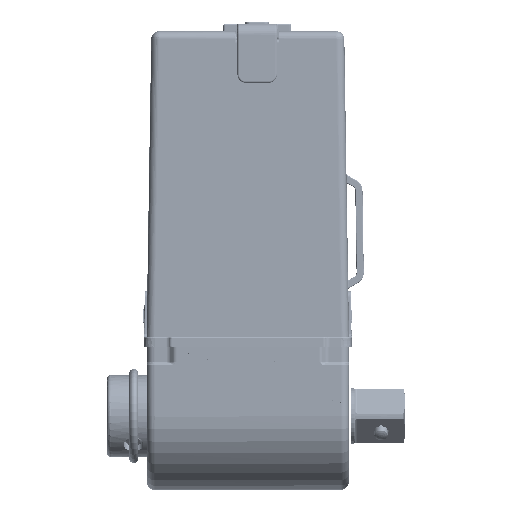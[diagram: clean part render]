
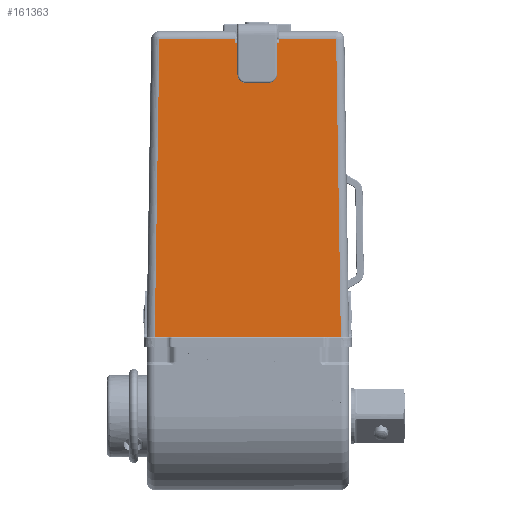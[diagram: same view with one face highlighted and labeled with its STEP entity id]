
A CAD part, left-side view. The second image highlights one B-rep face of the part: STEP entity #161363.
In plain terms, the highlighted planar face has unit normal (-1, 0, 0.016).
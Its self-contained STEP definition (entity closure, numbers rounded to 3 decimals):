
#17131=DIRECTION('',(0.,1.,0.));
#17132=VECTOR('',#17131,17.274);
#17133=CARTESIAN_POINT('',(-19.139,-26.89,
114.657));
#17134=LINE('',#17133,#17132);
#17171=DIRECTION('',(0.,-1.,0.));
#17172=VECTOR('',#17171,56.628);
#17173=CARTESIAN_POINT('',(-20.564,28.314,
24.));
#17174=LINE('',#17173,#17172);
#17204=DIRECTION('',(0.016,-0.016,1.));
#17205=VECTOR('',#17204,90.68);
#17206=CARTESIAN_POINT('',(-20.564,28.314,
24.));
#17207=LINE('',#17206,#17205);
#17208=DIRECTION('',(-0.016,-0.016,-1.));
#17209=VECTOR('',#17208,90.68);
#17210=CARTESIAN_POINT('',(-19.139,-26.89,
114.657));
#17211=LINE('',#17210,#17209);
#17212=CARTESIAN_POINT('',(-19.301,0.121,
104.359));
#17213=CARTESIAN_POINT('',(-19.301,0.209,
104.361));
#17214=CARTESIAN_POINT('',(-19.302,0.366,
104.326));
#17215=CARTESIAN_POINT('',(-19.304,0.559,
104.198));
#17216=CARTESIAN_POINT('',(-19.307,0.69,
104.));
#17217=CARTESIAN_POINT('',(-19.309,0.721,
103.852));
#17218=CARTESIAN_POINT('',(-19.31,0.721,
103.772));
#17220=CARTESIAN_POINT('',(-19.337,0.721,
102.072));
#17221=CARTESIAN_POINT('',(-19.338,0.721,
101.991));
#17222=CARTESIAN_POINT('',(-19.341,0.69,
101.843));
#17223=CARTESIAN_POINT('',(-19.344,0.561,
101.647));
#17224=CARTESIAN_POINT('',(-19.346,0.364,
101.517));
#17225=CARTESIAN_POINT('',(-19.346,0.216,
101.486));
#17226=CARTESIAN_POINT('',(-19.346,0.135,
101.486));
#17228=CARTESIAN_POINT('',(-19.346,-5.865,
101.486));
#17229=CARTESIAN_POINT('',(-19.346,-5.945,
101.486));
#17230=CARTESIAN_POINT('',(-19.346,-6.093,
101.516));
#17231=CARTESIAN_POINT('',(-19.344,-6.29,
101.646));
#17232=CARTESIAN_POINT('',(-19.341,-6.42,
101.843));
#17233=CARTESIAN_POINT('',(-19.338,-6.451,
101.991));
#17234=CARTESIAN_POINT('',(-19.337,-6.451,
102.072));
#17236=CARTESIAN_POINT('',(-19.31,-6.451,
103.772));
#17237=CARTESIAN_POINT('',(-19.309,-6.451,
103.852));
#17238=CARTESIAN_POINT('',(-19.307,-6.421,
104.));
#17239=CARTESIAN_POINT('',(-19.304,-6.29,
104.197));
#17240=CARTESIAN_POINT('',(-19.302,-6.097,
104.325));
#17241=CARTESIAN_POINT('',(-19.301,-5.94,
104.361));
#17242=CARTESIAN_POINT('',(-19.301,-5.85,
104.359));
#39877=CARTESIAN_POINT('',(-19.299,-5.585,
104.488));
#39878=CARTESIAN_POINT('',(-19.299,-5.62,
104.488));
#39879=CARTESIAN_POINT('',(-19.299,-5.685,
104.478));
#39880=CARTESIAN_POINT('',(-19.3,-5.78,
104.431));
#39881=CARTESIAN_POINT('',(-19.301,-5.83,
104.384));
#39882=CARTESIAN_POINT('',(-19.301,-5.85,
104.359));
#39904=DIRECTION('',(0.,-1.,0.));
#39905=VECTOR('',#39904,5.441);
#39906=CARTESIAN_POINT('',(-19.299,-0.144,
104.488));
#39907=LINE('',#39906,#39905);
#39922=CARTESIAN_POINT('',(-19.301,0.121,
104.359));
#39923=CARTESIAN_POINT('',(-19.301,0.1,
104.384));
#39924=CARTESIAN_POINT('',(-19.3,0.051,
104.431));
#39925=CARTESIAN_POINT('',(-19.299,-0.045,
104.478));
#39926=CARTESIAN_POINT('',(-19.299,-0.11,
104.488));
#39927=CARTESIAN_POINT('',(-19.299,-0.144,
104.488));
#40714=DIRECTION('',(-0.016,0.,-1.));
#40715=VECTOR('',#40714,1.7);
#40716=CARTESIAN_POINT('',(-19.31,-6.451,
103.772));
#40717=LINE('',#40716,#40715);
#40732=DIRECTION('',(0.,1.,0.));
#40733=VECTOR('',#40732,6.);
#40734=CARTESIAN_POINT('',(-19.346,-5.865,
101.486));
#40735=LINE('',#40734,#40733);
#40750=DIRECTION('',(0.016,0.,1.));
#40751=VECTOR('',#40750,1.7);
#40752=CARTESIAN_POINT('',(-19.337,0.721,
102.072));
#40753=LINE('',#40752,#40751);
#41122=DIRECTION('',(0.,1.,0.));
#41123=VECTOR('',#41122,13.466);
#41124=CARTESIAN_POINT('',(-19.156,-9.598,
113.634));
#41125=LINE('',#41124,#41123);
#41137=DIRECTION('',(-0.016,0.017,-1.));
#41138=VECTOR('',#41137,1.024);
#41139=CARTESIAN_POINT('',(-19.139,-9.616,
114.657));
#41140=LINE('',#41139,#41138);
#41141=DIRECTION('',(0.016,0.017,1.));
#41142=VECTOR('',#41141,1.024);
#41143=CARTESIAN_POINT('',(-19.156,3.868,
113.634));
#41144=LINE('',#41143,#41142);
#41165=DIRECTION('',(0.,1.,0.));
#41166=VECTOR('',#41165,23.004);
#41167=CARTESIAN_POINT('',(-19.139,3.886,
114.657));
#41168=LINE('',#41167,#41166);
#123743=CARTESIAN_POINT('',(-19.31,0.721,
103.772));
#123744=VERTEX_POINT('',#123743);
#123745=VERTEX_POINT('',#17212);
#123748=CARTESIAN_POINT('',(-19.337,0.721,
102.072));
#123749=VERTEX_POINT('',#123748);
#123752=CARTESIAN_POINT('',(-20.564,28.314,
24.));
#123753=CARTESIAN_POINT('',(-20.564,-28.314,
24.));
#123754=VERTEX_POINT('',#123752);
#123755=VERTEX_POINT('',#123753);
#123756=CARTESIAN_POINT('',(-19.139,26.89,
114.657));
#123757=VERTEX_POINT('',#123756);
#123758=CARTESIAN_POINT('',(-19.139,3.886,
114.657));
#123759=VERTEX_POINT('',#123758);
#123760=CARTESIAN_POINT('',(-19.156,3.868,
113.634));
#123761=VERTEX_POINT('',#123760);
#123762=CARTESIAN_POINT('',(-19.156,-9.598,
113.634));
#123763=VERTEX_POINT('',#123762);
#123764=CARTESIAN_POINT('',(-19.139,-9.616,
114.657));
#123765=VERTEX_POINT('',#123764);
#123766=CARTESIAN_POINT('',(-19.139,-26.89,
114.657));
#123767=VERTEX_POINT('',#123766);
#123768=CARTESIAN_POINT('',(-19.299,-0.144,
104.488));
#123769=CARTESIAN_POINT('',(-19.299,-5.585,
104.488));
#123770=VERTEX_POINT('',#123768);
#123771=VERTEX_POINT('',#123769);
#123772=VERTEX_POINT('',#17226);
#123773=CARTESIAN_POINT('',(-19.346,-5.865,
101.486));
#123774=VERTEX_POINT('',#123773);
#123775=VERTEX_POINT('',#17234);
#123776=CARTESIAN_POINT('',(-19.31,-6.451,
103.772));
#123777=VERTEX_POINT('',#123776);
#123778=VERTEX_POINT('',#17242);
#161321=CARTESIAN_POINT('',(-20.5,31.896,28.05));
#161322=DIRECTION('',(-1.,0.,0.016));
#161323=DIRECTION('',(0.,1.,0.));
#161324=AXIS2_PLACEMENT_3D('',#161321,#161322,#161323);
#161325=PLANE('',#161324);
#161326=ORIENTED_EDGE('',*,*,#161285,.F.);
#161328=ORIENTED_EDGE('',*,*,#161327,.T.);
#161330=ORIENTED_EDGE('',*,*,#161329,.F.);
#161332=ORIENTED_EDGE('',*,*,#161331,.F.);
#161334=ORIENTED_EDGE('',*,*,#161333,.F.);
#161336=ORIENTED_EDGE('',*,*,#161335,.F.);
#161337=ORIENTED_EDGE('',*,*,#161227,.F.);
#161338=ORIENTED_EDGE('',*,*,#161265,.T.);
#161339=EDGE_LOOP('',(#161326,#161328,#161330,#161332,#161334,#161336,#161337,
#161338));
#161340=FACE_OUTER_BOUND('',#161339,.F.);
#161342=ORIENTED_EDGE('',*,*,#161341,.F.);
#161344=ORIENTED_EDGE('',*,*,#161343,.F.);
#161346=ORIENTED_EDGE('',*,*,#161345,.T.);
#161348=ORIENTED_EDGE('',*,*,#161347,.F.);
#161350=ORIENTED_EDGE('',*,*,#161349,.T.);
#161352=ORIENTED_EDGE('',*,*,#161351,.F.);
#161354=ORIENTED_EDGE('',*,*,#161353,.T.);
#161356=ORIENTED_EDGE('',*,*,#161355,.F.);
#161358=ORIENTED_EDGE('',*,*,#161357,.T.);
#161360=ORIENTED_EDGE('',*,*,#161359,.F.);
#161361=EDGE_LOOP('',(#161342,#161344,#161346,#161348,#161350,#161352,#161354,
#161356,#161358,#161360));
#161362=FACE_BOUND('',#161361,.F.);
#17219=B_SPLINE_CURVE_WITH_KNOTS('',3,(#17212,#17213,#17214,#17215,#17216,
#17217,#17218),.UNSPECIFIED.,.F.,.F.,(4,1,1,1,4),(0.,0.25,0.5,0.75,
1.),.UNSPECIFIED.);
#17227=B_SPLINE_CURVE_WITH_KNOTS('',3,(#17220,#17221,#17222,#17223,#17224,
#17225,#17226),.UNSPECIFIED.,.F.,.F.,(4,1,1,1,4),(0.,0.25,0.5,0.75,
1.),.UNSPECIFIED.);
#17235=B_SPLINE_CURVE_WITH_KNOTS('',3,(#17228,#17229,#17230,#17231,#17232,
#17233,#17234),.UNSPECIFIED.,.F.,.F.,(4,1,1,1,4),(0.,0.25,0.5,0.75,
1.),.UNSPECIFIED.);
#17243=B_SPLINE_CURVE_WITH_KNOTS('',3,(#17236,#17237,#17238,#17239,#17240,
#17241,#17242),.UNSPECIFIED.,.F.,.F.,(4,1,1,1,4),(0.,0.25,0.5,0.75,
1.),.UNSPECIFIED.);
#39883=B_SPLINE_CURVE_WITH_KNOTS('',3,(#39877,#39878,#39879,#39880,#39881,
#39882),.UNSPECIFIED.,.F.,.F.,(4,1,1,4),(0.,0.333,
0.667,1.),.UNSPECIFIED.);
#39928=B_SPLINE_CURVE_WITH_KNOTS('',3,(#39922,#39923,#39924,#39925,#39926,
#39927),.UNSPECIFIED.,.F.,.F.,(4,1,1,4),(0.,0.333,
0.667,1.),.UNSPECIFIED.);
#161227=EDGE_CURVE('',#123767,#123765,#17134,.T.);
#161265=EDGE_CURVE('',#123767,#123755,#17211,.T.);
#161285=EDGE_CURVE('',#123754,#123755,#17174,.T.);
#161327=EDGE_CURVE('',#123754,#123757,#17207,.T.);
#161329=EDGE_CURVE('',#123759,#123757,#41168,.T.);
#161331=EDGE_CURVE('',#123761,#123759,#41144,.T.);
#161333=EDGE_CURVE('',#123763,#123761,#41125,.T.);
#161335=EDGE_CURVE('',#123765,#123763,#41140,.T.);
#161341=EDGE_CURVE('',#123770,#123771,#39907,.T.);
#161343=EDGE_CURVE('',#123745,#123770,#39928,.T.);
#161345=EDGE_CURVE('',#123745,#123744,#17219,.T.);
#161347=EDGE_CURVE('',#123749,#123744,#40753,.T.);
#161349=EDGE_CURVE('',#123749,#123772,#17227,.T.);
#161351=EDGE_CURVE('',#123774,#123772,#40735,.T.);
#161353=EDGE_CURVE('',#123774,#123775,#17235,.T.);
#161355=EDGE_CURVE('',#123777,#123775,#40717,.T.);
#161357=EDGE_CURVE('',#123777,#123778,#17243,.T.);
#161359=EDGE_CURVE('',#123771,#123778,#39883,.T.);
#161363=ADVANCED_FACE('',(#161340,#161362),#161325,.T.);
